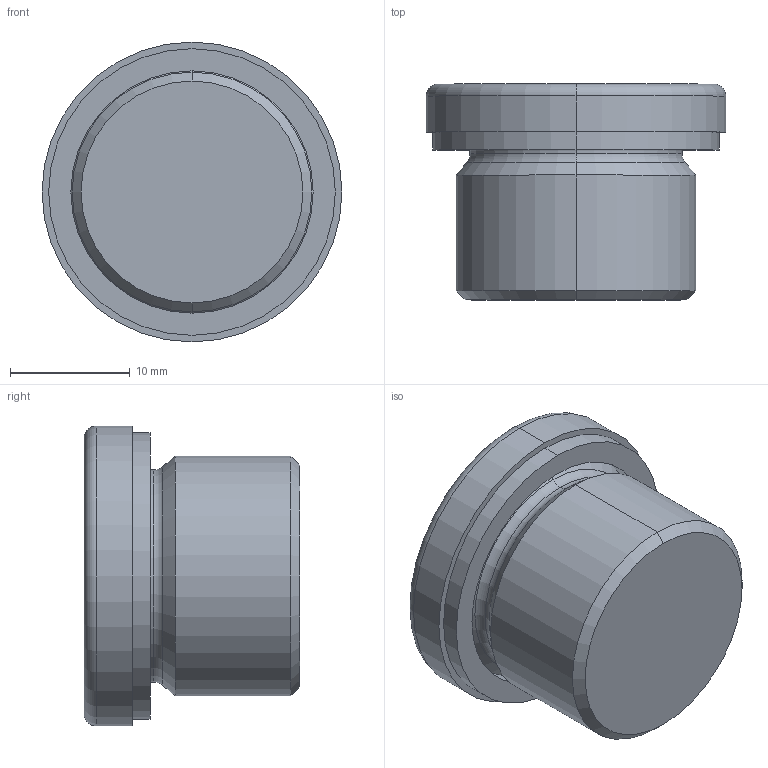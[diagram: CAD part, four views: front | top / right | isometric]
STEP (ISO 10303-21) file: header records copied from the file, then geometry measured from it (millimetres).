
FILE_DESCRIPTION (( 'STEP AP214' ), '1' );
FILE_NAME ('908-A4-M20x1,5-AN.step', '2024-12-19T09:19:39', ( '' ), ( '' ), 'SwSTEP 2.0', 'SolidWorks 2022', '' );
FILE_SCHEMA (( 'AUTOMOTIVE_DESIGN' ));
Length unit declared in the file: millimetre
Products named in the file (1): 908-A4-M20x1,5-AN
Bounding box: 25 x 18 x 25 mm (x, y, z)
Volume: 5723.3 mm3; surface area: 2603.4 mm2
Topology: 1 solids, 1 shells, 31 faces, 64 edges, 38 vertices
Faces by surface type: plane 11, cylinder 8, torus 6, cone 6
Entity records: 929 total; most frequent: DIRECTION 160, CARTESIAN_POINT 134, ORIENTED_EDGE 128, EDGE_CURVE 64, AXIS2_PLACEMENT_3D 64, VERTEX_POINT 38, EDGE_LOOP 34, LINE 32
